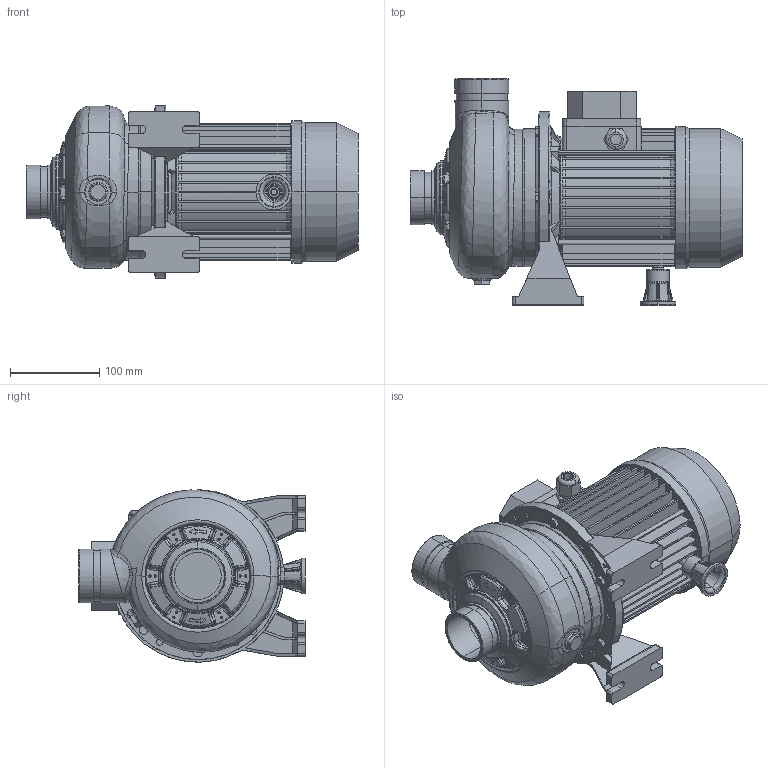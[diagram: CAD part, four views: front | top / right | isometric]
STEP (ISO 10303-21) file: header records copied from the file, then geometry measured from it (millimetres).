
FILE_DESCRIPTION((''),'2;1');
FILE_NAME('DWC_V_300_1_1_IE2_ASM','2011-06-27T',('Utente'),('"Ebara Pumps Europe +39.444.706811"'),'PRO/ENGINEER BY PARAMETRIC TECHNOLOGY CORPORATION, 2009360','PRO/ENGINEER BY PARAMETRIC TECHNOLOGY CORPORATION, 2009360','');
FILE_SCHEMA(('AUTOMOTIVE_DESIGN { 1 0 10303 214 1 1 1 1 }'));
Length unit declared in the file: millimetre
Products named in the file (12): MEC_80X100_IE2; 80596; 251420991; 10054; 76006; 40032; 62074; 10188; 20104_ASM; 72011; 72028; DWC_V_300_1_1_IE2_ASM
Assembly tree (13 placements, depth 3):
  DWC_V_300_1_1_IE2_ASM
    MEC_80X100_IE2
    80596
    20104_ASM
      251420991
      10054
      76006  x2
      40032  x2
      62074
      10188
    72011
    72028
Bounding box: 371.5 x 253 x 192.9 mm (x, y, z)
Volume: 2777092.9 mm3; surface area: 652174.9 mm2
Topology: 12 solids, 12 shells, 1646 faces, 3964 edges, 2396 vertices
Faces by surface type: plane 509, bspline 434, cylinder 282, torus 210, cone 165, sphere 42, extrusion 4
Entity records: 89703 total; most frequent: CARTESIAN_POINT 39577, ORIENTED_EDGE 7746, DIRECTION 6683, EDGE_CURVE 3873, PRESENTATION_STYLE_ASSIGNMENT 3826, STYLED_ITEM 3826, CURVE_STYLE 3817, AXIS2_PLACEMENT_3D 2773
